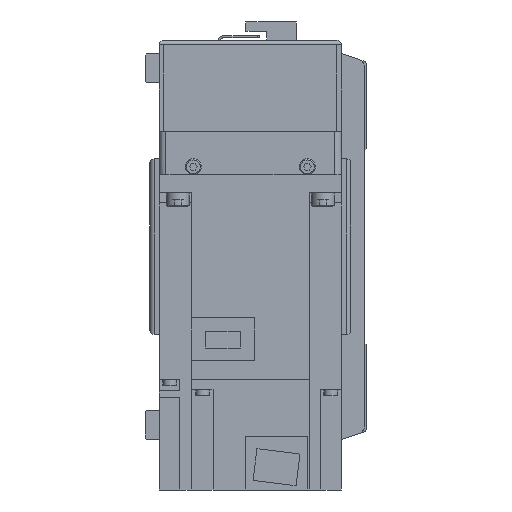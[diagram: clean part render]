
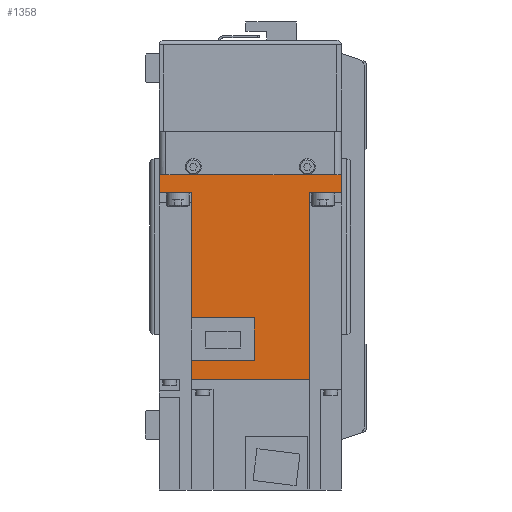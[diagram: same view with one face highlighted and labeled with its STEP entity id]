
A CAD part, left-side view. The second image highlights one B-rep face of the part: STEP entity #1358.
In plain terms, the highlighted planar face has unit normal (-1, 0, 0) as drawn and (1, 0, 0) by its records, which use the part's own axes.
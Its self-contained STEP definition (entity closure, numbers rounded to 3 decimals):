
#1358 = ADVANCED_FACE( '', ( #3503 ), #3504, .F. );
#3503 = FACE_OUTER_BOUND( '', #6687, .T. );
#3504 = PLANE( '', #6688 );
#6687 = EDGE_LOOP( '', ( #10418, #10419, #10420, #10421, #10422, #10423, #10424, #10425, #10426, #10427, #10428, #10429 ) );
#6688 = AXIS2_PLACEMENT_3D( '', #10430, #10431, #10432 );
#10418 = ORIENTED_EDGE( '', *, *, #18803, .F. );
#10419 = ORIENTED_EDGE( '', *, *, #18804, .F. );
#10420 = ORIENTED_EDGE( '', *, *, #18805, .F. );
#10421 = ORIENTED_EDGE( '', *, *, #18806, .T. );
#10422 = ORIENTED_EDGE( '', *, *, #18807, .F. );
#10423 = ORIENTED_EDGE( '', *, *, #18808, .T. );
#10424 = ORIENTED_EDGE( '', *, *, #18809, .T. );
#10425 = ORIENTED_EDGE( '', *, *, #18810, .F. );
#10426 = ORIENTED_EDGE( '', *, *, #18811, .F. );
#10427 = ORIENTED_EDGE( '', *, *, #18812, .F. );
#10428 = ORIENTED_EDGE( '', *, *, #18813, .F. );
#10429 = ORIENTED_EDGE( '', *, *, #18814, .F. );
#10430 = CARTESIAN_POINT( '', ( 40., 89.8, 40. ) );
#10431 = DIRECTION( '', ( -1., 0., 0. ) );
#10432 = DIRECTION( '', ( 0., 0., 1. ) );
#18803 = EDGE_CURVE( '', #22624, #22625, #22626, .T. );
#18804 = EDGE_CURVE( '', #22627, #22624, #22628, .T. );
#18805 = EDGE_CURVE( '', #22629, #22627, #22630, .T. );
#18806 = EDGE_CURVE( '', #22629, #22631, #22632, .T. );
#18807 = EDGE_CURVE( '', #22633, #22631, #22634, .T. );
#18808 = EDGE_CURVE( '', #22633, #22635, #22636, .T. );
#18809 = EDGE_CURVE( '', #22635, #22637, #22638, .T. );
#18810 = EDGE_CURVE( '', #22639, #22637, #22640, .T. );
#18811 = EDGE_CURVE( '', #22641, #22639, #22642, .T. );
#18812 = EDGE_CURVE( '', #22643, #22641, #22644, .T. );
#18813 = EDGE_CURVE( '', #22645, #22643, #22646, .T. );
#18814 = EDGE_CURVE( '', #22625, #22645, #22647, .T. );
#22624 = VERTEX_POINT( '', #28043 );
#22625 = VERTEX_POINT( '', #28044 );
#22626 = LINE( '', #28045, #28046 );
#22627 = VERTEX_POINT( '', #28047 );
#22628 = LINE( '', #28048, #28049 );
#22629 = VERTEX_POINT( '', #28050 );
#22630 = LINE( '', #28051, #28052 );
#22631 = VERTEX_POINT( '', #28053 );
#22632 = LINE( '', #28054, #28055 );
#22633 = VERTEX_POINT( '', #28056 );
#22634 = LINE( '', #28057, #28058 );
#22635 = VERTEX_POINT( '', #28059 );
#22636 = LINE( '', #28060, #28061 );
#22637 = VERTEX_POINT( '', #28062 );
#22638 = LINE( '', #28063, #28064 );
#22639 = VERTEX_POINT( '', #28065 );
#22640 = LINE( '', #28066, #28067 );
#22641 = VERTEX_POINT( '', #28068 );
#22642 = LINE( '', #28069, #28070 );
#22643 = VERTEX_POINT( '', #28071 );
#22644 = LINE( '', #28072, #28073 );
#22645 = VERTEX_POINT( '', #28074 );
#22646 = LINE( '', #28075, #28076 );
#22647 = LINE( '', #28077, #28078 );
#28043 = CARTESIAN_POINT( '', ( 40., 81.4, -25.95 ) );
#28044 = CARTESIAN_POINT( '', ( 40., 81.4, 1.8 ) );
#28045 = CARTESIAN_POINT( '', ( 40., 81.4, -26. ) );
#28046 = VECTOR( '', #34715, 1000. );
#28047 = CARTESIAN_POINT( '', ( 40., 89.8, -25.95 ) );
#28048 = CARTESIAN_POINT( '', ( 40., 158., -25.95 ) );
#28049 = VECTOR( '', #34716, 1000. );
#28050 = CARTESIAN_POINT( '', ( 40., 89.8, 25.95 ) );
#28051 = CARTESIAN_POINT( '', ( 40., 89.8, 40. ) );
#28052 = VECTOR( '', #34717, 1000. );
#28053 = CARTESIAN_POINT( '', ( 40., 8., 25.95 ) );
#28054 = CARTESIAN_POINT( '', ( 40., 158., 25.95 ) );
#28055 = VECTOR( '', #34718, 1000. );
#28056 = CARTESIAN_POINT( '', ( 40., 8., 40. ) );
#28057 = CARTESIAN_POINT( '', ( 40., 8., 40. ) );
#28058 = VECTOR( '', #34719, 1000. );
#28059 = CARTESIAN_POINT( '', ( 40., 0., 40. ) );
#28060 = CARTESIAN_POINT( '', ( 40., 89.8, 40. ) );
#28061 = VECTOR( '', #34720, 1000. );
#28062 = CARTESIAN_POINT( '', ( 40., 0., -40. ) );
#28063 = CARTESIAN_POINT( '', ( 40., 0., 40. ) );
#28064 = VECTOR( '', #34721, 1000. );
#28065 = CARTESIAN_POINT( '', ( 40., 8., -40. ) );
#28066 = CARTESIAN_POINT( '', ( 40., 89.8, -40. ) );
#28067 = VECTOR( '', #34722, 1000. );
#28068 = CARTESIAN_POINT( '', ( 40., 8., -25.95 ) );
#28069 = CARTESIAN_POINT( '', ( 40., 8., 40. ) );
#28070 = VECTOR( '', #34723, 1000. );
#28071 = CARTESIAN_POINT( '', ( 40., 62.8, -25.95 ) );
#28072 = CARTESIAN_POINT( '', ( 40., 158., -25.95 ) );
#28073 = VECTOR( '', #34724, 1000. );
#28074 = CARTESIAN_POINT( '', ( 40., 62.8, 1.8 ) );
#28075 = CARTESIAN_POINT( '', ( 40., 62.8, 1.8 ) );
#28076 = VECTOR( '', #34725, 1000. );
#28077 = CARTESIAN_POINT( '', ( 40., 81.4, 1.8 ) );
#28078 = VECTOR( '', #34726, 1000. );
#34715 = DIRECTION( '', ( 0., 0., 1. ) );
#34716 = DIRECTION( '', ( 0., -1., 0. ) );
#34717 = DIRECTION( '', ( 0., 0., -1. ) );
#34718 = DIRECTION( '', ( 0., -1., 0. ) );
#34719 = DIRECTION( '', ( 0., 0., -1. ) );
#34720 = DIRECTION( '', ( 0., -1., 0. ) );
#34721 = DIRECTION( '', ( 0., 0., -1. ) );
#34722 = DIRECTION( '', ( 0., -1., 0. ) );
#34723 = DIRECTION( '', ( 0., 0., -1. ) );
#34724 = DIRECTION( '', ( 0., -1., 0. ) );
#34725 = DIRECTION( '', ( 0., 0., -1. ) );
#34726 = DIRECTION( '', ( 0., -1., 0. ) );
